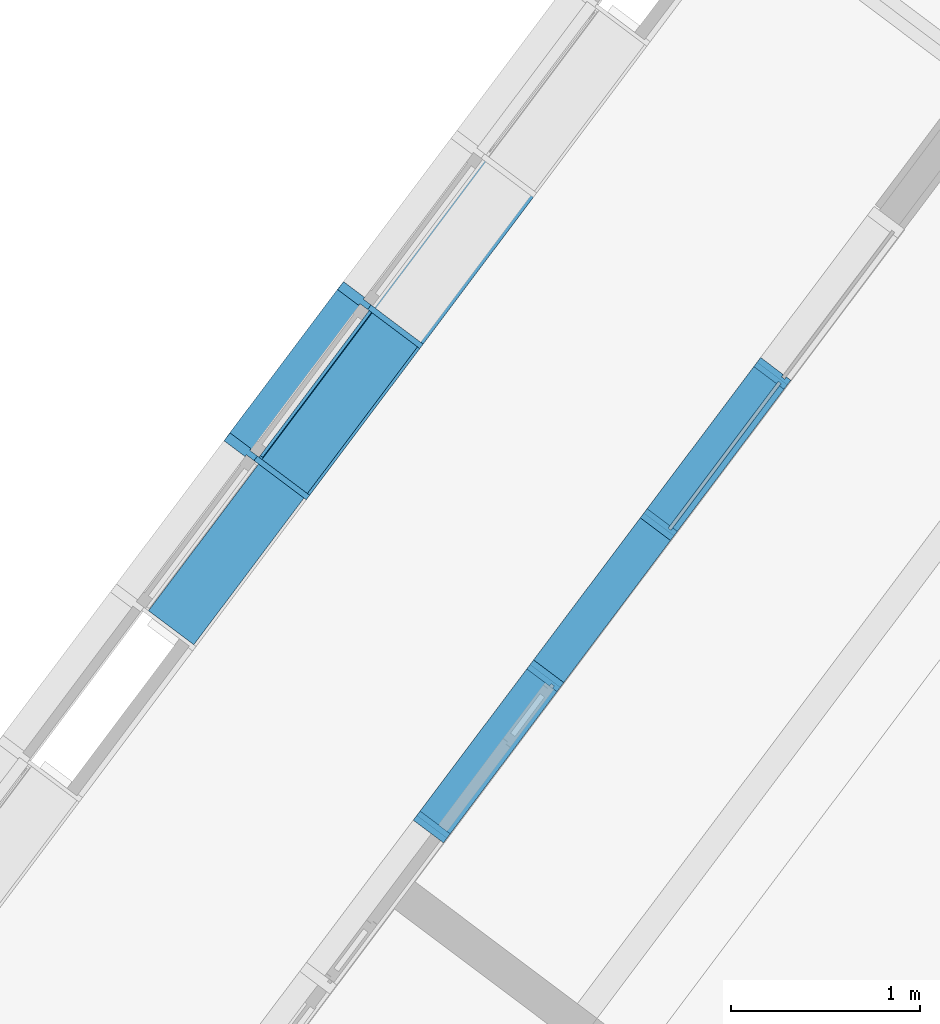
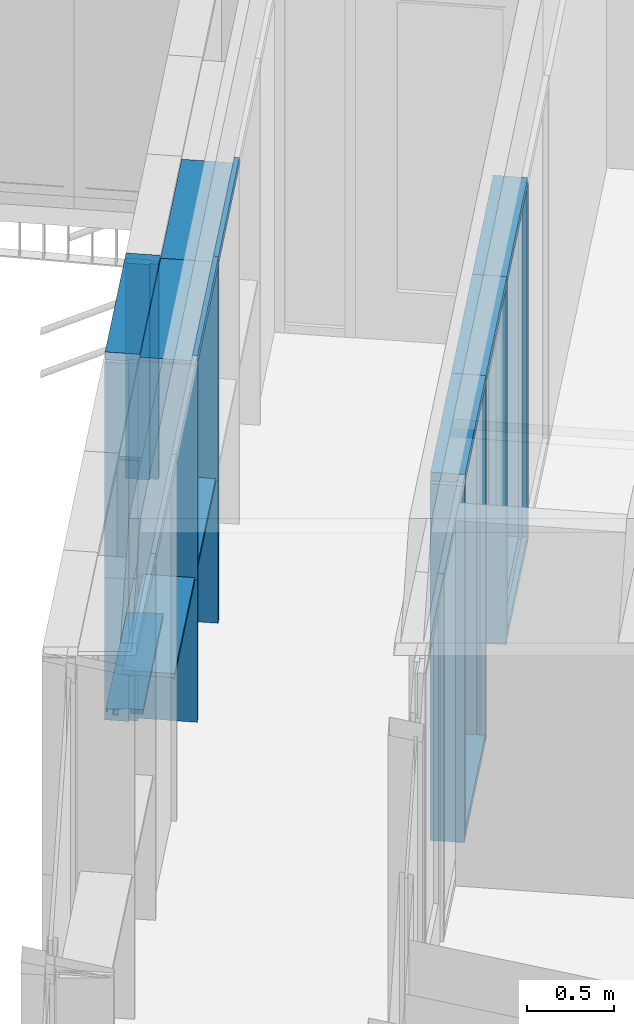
# One storey, part 24 of 243: 22 members, 3 elements without a shape of their own.
"""IFC2X3 building model written with IfcOpenShell, lengths in metres."""

from ifc_helpers import new_model, entity, si_unit, converted_unit, derived_unit, direction, frame, frame_2d, origin, place, context, subcontext, project, spatial, polyline, circle_curve, parameter, trimmed, segment, composite_curve, rectangle, outline, extrude, source, transform, mapped, material, type_object, type_shapes, element, aggregate, save


model = new_model("IFC2X3")

# Units and contexts
model_context = context("Model", 3, precision=1e-05, world=origin(), true_north=direction((6.123031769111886e-17, 1.0)))
body_context = subcontext(model_context, "Body", "Model", "MODEL_VIEW")
ifc_project = project(units=[si_unit("LENGTHUNIT", "METRE"), si_unit("AREAUNIT", "SQUARE_METRE"), si_unit("VOLUMEUNIT", "CUBIC_METRE"), converted_unit("PLANEANGLEUNIT", "DEGREE", entity("IfcRatioMeasure", 0.017453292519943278), si_unit("PLANEANGLEUNIT", "RADIAN"), dimensions=[0, 0, 0, 0, 0, 0, 0]), si_unit("MASSUNIT", "GRAM", prefix="KILO"), derived_unit("MASSDENSITYUNIT", [(si_unit("MASSUNIT", "GRAM", prefix="KILO"), 1), (si_unit("LENGTHUNIT", "METRE"), -3)]), derived_unit("IONCONCENTRATIONUNIT", [(si_unit("MASSUNIT", "GRAM", prefix="KILO"), 1), (si_unit("LENGTHUNIT", "METRE"), -3)]), derived_unit("MOMENTOFINERTIAUNIT", [(si_unit("LENGTHUNIT", "METRE"), 4)]), si_unit("TIMEUNIT", "SECOND"), si_unit("FREQUENCYUNIT", "HERTZ"), si_unit("THERMODYNAMICTEMPERATUREUNIT", "DEGREE_CELSIUS"), derived_unit("THERMALTRANSMITTANCEUNIT", [(si_unit("MASSUNIT", "GRAM", prefix="KILO"), 1), (si_unit("THERMODYNAMICTEMPERATUREUNIT", "KELVIN"), -1), (si_unit("TIMEUNIT", "SECOND"), -3)]), derived_unit("THERMALCONDUCTANCEUNIT", [(si_unit("MASSUNIT", "GRAM", prefix="KILO"), 1), (si_unit("THERMODYNAMICTEMPERATUREUNIT", "KELVIN"), -1), (si_unit("TIMEUNIT", "SECOND"), -3), (si_unit("LENGTHUNIT", "METRE"), 1)]), derived_unit("VOLUMETRICFLOWRATEUNIT", [(si_unit("LENGTHUNIT", "METRE"), 3), (si_unit("TIMEUNIT", "SECOND"), -1)]), derived_unit("MASSFLOWRATEUNIT", [(si_unit("MASSUNIT", "GRAM", prefix="KILO"), 1), (si_unit("TIMEUNIT", "SECOND"), -1)]), derived_unit("ROTATIONALFREQUENCYUNIT", [(si_unit("TIMEUNIT", "SECOND"), -1)]), si_unit("ELECTRICCURRENTUNIT", "AMPERE"), si_unit("ELECTRICVOLTAGEUNIT", "VOLT"), si_unit("POWERUNIT", "WATT"), si_unit("FORCEUNIT", "NEWTON", prefix="KILO"), si_unit("ILLUMINANCEUNIT", "LUX"), si_unit("LUMINOUSFLUXUNIT", "LUMEN"), si_unit("LUMINOUSINTENSITYUNIT", "CANDELA"), derived_unit("USERDEFINED", [(si_unit("MASSUNIT", "GRAM", prefix="KILO"), -1), (si_unit("LENGTHUNIT", "METRE"), -2), (si_unit("TIMEUNIT", "SECOND"), 3), (si_unit("LUMINOUSFLUXUNIT", "LUMEN"), 1)]), derived_unit("USERDEFINED", [(si_unit("MASSUNIT", "GRAM", prefix="KILO"), 1), (si_unit("TIMEUNIT", "SECOND"), -3), (si_unit("LENGTHUNIT", "METRE"), 3), (si_unit("ELECTRICCURRENTUNIT", "AMPERE"), -2)]), derived_unit("SOUNDPOWERUNIT", [(si_unit("MASSUNIT", "GRAM", prefix="KILO"), 1), (si_unit("TIMEUNIT", "SECOND"), -3), (si_unit("LENGTHUNIT", "METRE"), 2)]), derived_unit("SOUNDPRESSUREUNIT", [(si_unit("MASSUNIT", "GRAM", prefix="KILO"), 1), (si_unit("LENGTHUNIT", "METRE"), -1), (si_unit("TIMEUNIT", "SECOND"), -2)]), derived_unit("LINEARVELOCITYUNIT", [(si_unit("LENGTHUNIT", "METRE"), 1), (si_unit("TIMEUNIT", "SECOND"), -1)]), si_unit("PRESSUREUNIT", "PASCAL"), derived_unit("USERDEFINED", [(si_unit("MASSUNIT", "GRAM", prefix="KILO"), 1), (si_unit("LENGTHUNIT", "METRE"), -2), (si_unit("TIMEUNIT", "SECOND"), -2)]), derived_unit("LINEARFORCEUNIT", [(si_unit("MASSUNIT", "GRAM", prefix="KILO"), 1), (si_unit("TIMEUNIT", "SECOND"), -2)]), derived_unit("PLANARFORCEUNIT", [(si_unit("MASSUNIT", "GRAM", prefix="KILO"), 1), (si_unit("LENGTHUNIT", "METRE"), -1), (si_unit("TIMEUNIT", "SECOND"), -2)]), derived_unit("SPECIFICHEATCAPACITYUNIT", [(si_unit("THERMODYNAMICTEMPERATUREUNIT", "KELVIN"), -1), (si_unit("LENGTHUNIT", "METRE"), 2), (si_unit("TIMEUNIT", "SECOND"), -2)]), derived_unit("HEATINGVALUEUNIT", [(si_unit("LENGTHUNIT", "METRE"), 2), (si_unit("TIMEUNIT", "SECOND"), -2)]), derived_unit("VAPORPERMEABILITYUNIT", [(si_unit("LENGTHUNIT", "METRE"), -1), (si_unit("TIMEUNIT", "SECOND"), 1)]), derived_unit("DYNAMICVISCOSITYUNIT", [(si_unit("MASSUNIT", "GRAM", prefix="KILO"), 1), (si_unit("TIMEUNIT", "SECOND"), -1), (si_unit("LENGTHUNIT", "METRE"), -1)]), derived_unit("THERMALEXPANSIONCOEFFICIENTUNIT", [(si_unit("THERMODYNAMICTEMPERATUREUNIT", "KELVIN"), -1)]), derived_unit("MODULUSOFELASTICITYUNIT", [(si_unit("MASSUNIT", "GRAM", prefix="KILO"), 1), (si_unit("LENGTHUNIT", "METRE"), -1), (si_unit("TIMEUNIT", "SECOND"), -2)]), derived_unit("ISOTHERMALMOISTURECAPACITYUNIT", [(si_unit("LENGTHUNIT", "METRE"), 3), (si_unit("MASSUNIT", "GRAM", prefix="KILO"), -1)]), derived_unit("MOISTUREDIFFUSIVITYUNIT", [(si_unit("TIMEUNIT", "SECOND"), -1), (si_unit("LENGTHUNIT", "METRE"), 2)])], contexts=[model_context])

# Site, building, storey
site_placement = place(None, frame((0.0, 0.0, 235.0), z_axis=(0.0, 0.0, 1.0), x_axis=(-0.7996477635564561, 0.6004693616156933, 0.0)))
site = spatial("IfcSite", under=ifc_project, at=site_placement, Name="Default", CompositionType="ELEMENT")
building_placement = place(site_placement, origin())
building = spatial("IfcBuilding", under=site, at=building_placement, CompositionType="ELEMENT")
storey_placement = place(building_placement, origin())
storey = spatial("IfcBuildingStorey", under=building, at=storey_placement, Name="P0- Escola", CompositionType="ELEMENT", Elevation=0.0)

# Curtain wall, members
curtain_wall_type_1 = type_object("IfcCurtainWallType", Name="Muro cortina:MC- INT- a2", PredefinedType="NOTDEFINED")
curtain_wall_1_placement = place(storey_placement, origin())
curtain_wall_1 = element("IfcCurtainWall", 1, at=curtain_wall_1_placement, inside=storey, type_object=curtain_wall_type_1, Name="Muro cortina:MC- INT- a2", ObjectType="Muro cortina:MC- INT- a2")
ifc_material_1 = material(Name="_Fusta massisa- T1")
member_type_1 = type_object("IfcMemberType", Name="Montante rectangular:MC- Fusta- 20x6 cm- Centre", PredefinedType="MULLION", material=ifc_material_1)
shared_shape_1 = source(origin(), body_context, "Body", "SweptSolid", [
    extrude(outline(polyline([(-0.14, -0.03), (0.009999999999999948, -0.03), (0.009999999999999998, -0.014999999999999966), (0.030000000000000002, -0.015), (0.030000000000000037, -0.030000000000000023), (0.060000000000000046, -0.029999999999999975), (0.059999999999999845, 0.030000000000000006), (0.030000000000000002, 0.029999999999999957), (0.030000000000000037, 0.015), (0.010000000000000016, 0.015), (0.010000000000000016, 0.03), (-0.14, 0.03), (-0.14, -0.03)])), frame((0.0, 0.019999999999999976, -2.505000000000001), z_axis=(0.0, 0.0, 1.0), x_axis=(0.0, -1.0, 0.0)), (0.0, 0.0, 1.0), 2.5050000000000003),
])
type_shapes(member_type_1, [shared_shape_1])
member_1_placement = place(curtain_wall_1_placement, frame((34.62014768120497, -33.41519175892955, 0.0), z_axis=(0.0, 0.0, -1.0), x_axis=(0.0, 1.0, 0.0)))
member_1 = element("IfcMember", 2, at=member_1_placement, type_object=member_type_1, material=ifc_material_1, Name="Montante rectangular:MC- Fusta- 20x6 cm- Centre", ObjectType="Montante rectangular:MC- Fusta- 20x6 cm- Centre", context=body_context, shape_type="MappedRepresentation", body=[
    mapped(shared_shape_1, transform((0.0, 0.0, 0.0), scale=1.0)),
])
member_type_2 = type_object("IfcMemberType", Name="Montante rectangular:MC- Fusta- 20x6 cm- Esquerra", PredefinedType="MULLION", material=ifc_material_1)
shared_shape_2 = source(origin(), body_context, "Body", "SweptSolid", [
    extrude(outline(polyline([(-0.13, -0.018750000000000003), (0.02, -0.018750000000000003), (0.02, -0.003750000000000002), (0.04000000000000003, -0.003750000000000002), (0.04000000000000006, -0.01875000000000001), (0.07000000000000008, -0.018750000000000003), (0.06999999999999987, 0.041249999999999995), (-0.13, 0.041249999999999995), (-0.13, -0.018750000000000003)])), frame((-0.01124999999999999, 0.029999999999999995, -2.5050000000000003), z_axis=(0.0, 0.0, 1.0), x_axis=(0.0, -1.0, 0.0)), (0.0, 0.0, 1.0), 2.5050000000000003),
])
type_shapes(member_type_2, [shared_shape_2])
member_2_placement = place(curtain_wall_1_placement, frame((34.62014768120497, -32.41519175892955, 0.0), z_axis=(0.0, 0.0, -1.0), x_axis=(0.0, 1.0, 0.0)))
member_2 = element("IfcMember", 3, at=member_2_placement, type_object=member_type_2, material=ifc_material_1, Name="Montante rectangular:MC- Fusta- 20x6 cm- Esquerra", ObjectType="Montante rectangular:MC- Fusta- 20x6 cm- Esquerra", context=body_context, shape_type="MappedRepresentation", body=[
    mapped(shared_shape_2, transform((0.0, 0.0, 0.0), scale=1.0)),
])
member_type_3 = type_object("IfcMemberType", Name="Montante rectangular:MC- Fusta- 20x6 cm- Esquerra", PredefinedType="MULLION", material=ifc_material_1)
shared_shape_3 = source(origin(), body_context, "Body", "SweptSolid", [
    extrude(outline(polyline([(-0.13000000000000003, -0.018750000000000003), (0.020000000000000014, -0.018750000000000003), (0.020000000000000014, -0.003750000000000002), (0.040000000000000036, -0.003750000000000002), (0.04000000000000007, -0.01875000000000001), (0.07000000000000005, -0.018750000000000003), (0.06999999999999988, 0.041249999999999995), (-0.13000000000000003, 0.041249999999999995), (-0.13000000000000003, -0.018750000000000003)])), frame((-0.041249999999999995, 0.030000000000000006, -1.0), z_axis=(0.0, 0.0, 1.0), x_axis=(0.0, -1.0, 0.0)), (0.0, 0.0, 1.0), 0.9999999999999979),
])
type_shapes(member_type_3, [shared_shape_3])
member_3_placement = place(curtain_wall_1_placement, frame((34.62014768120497, -32.41519175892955, 2.565), z_axis=(0.0, 1.0, 0.0), x_axis=(0.0, 0.0, 1.0)))
member_3 = element("IfcMember", 4, at=member_3_placement, type_object=member_type_3, material=ifc_material_1, Name="Montante rectangular:MC- Fusta- 20x6 cm- Esquerra", ObjectType="Montante rectangular:MC- Fusta- 20x6 cm- Esquerra", context=body_context, shape_type="MappedRepresentation", body=[
    mapped(shared_shape_3, transform((0.0, 0.0, 0.0), scale=1.0)),
])
member_type_4 = type_object("IfcMemberType", Name="Montante rectangular:MC- Fusta- 20x6 cm- Neutre", PredefinedType="MULLION", material=ifc_material_1)
shared_shape_4 = source(origin(), body_context, "Body", "SweptSolid", [
    extrude(rectangle(XDim=0.2, YDim=0.06, at=frame_2d((-5.551115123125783e-17, 0.0), x_axis=(1.0, 0.0))), frame((0.0, 0.060000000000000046, -2.5050000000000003), z_axis=(0.0, 0.0, 1.0), x_axis=(0.0, -1.0, 0.0)), (0.0, 0.0, 1.0), 2.5050000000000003),
])
type_shapes(member_type_4, [shared_shape_4])
member_4_placement = place(curtain_wall_1_placement, frame((34.620147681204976, -30.41519175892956, 0.0), z_axis=(0.0, 0.0, -1.0), x_axis=(0.0, 1.0, 0.0)))
member_4 = element("IfcMember", 5, at=member_4_placement, type_object=member_type_4, material=ifc_material_1, Name="Montante rectangular:MC- Fusta- 20x6 cm- Neutre", ObjectType="Montante rectangular:MC- Fusta- 20x6 cm- Neutre", context=body_context, shape_type="MappedRepresentation", body=[
    mapped(shared_shape_4, transform((0.0, 0.0, 0.0), scale=1.0)),
])
member_type_5 = type_object("IfcMemberType", Name="Montante rectangular:MC- Fusta- 20x6 cm- Esquerra", PredefinedType="MULLION", material=ifc_material_1)
shared_shape_5 = source(origin(), body_context, "Body", "SweptSolid", [
    extrude(outline(polyline([(-0.13, -0.018750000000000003), (0.02, -0.018750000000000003), (0.02, -0.003750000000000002), (0.04000000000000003, -0.003750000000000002), (0.04000000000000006, -0.01875000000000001), (0.07000000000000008, -0.018750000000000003), (0.06999999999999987, 0.041249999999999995), (-0.13, 0.041249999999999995), (-0.13, -0.018750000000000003)])), frame((-0.041249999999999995, 0.029999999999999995, -1.0), z_axis=(0.0, 0.0, 1.0), x_axis=(0.0, -1.0, 0.0)), (0.0, 0.0, 1.0), 0.9999999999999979),
])
type_shapes(member_type_5, [shared_shape_5])
member_5_placement = place(curtain_wall_1_placement, frame((34.620147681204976, -30.41519175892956, 2.565), z_axis=(0.0, 1.0, 0.0), x_axis=(0.0, 0.0, 1.0)))
member_5 = element("IfcMember", 6, at=member_5_placement, type_object=member_type_5, material=ifc_material_1, Name="Montante rectangular:MC- Fusta- 20x6 cm- Esquerra", ObjectType="Montante rectangular:MC- Fusta- 20x6 cm- Esquerra", context=body_context, shape_type="MappedRepresentation", body=[
    mapped(shared_shape_5, transform((0.0, 0.0, 0.0), scale=1.0)),
])
member_type_6 = type_object("IfcMemberType", Name="Montante rectangular:MC- Fusta- 20x6 cm- Neutre", PredefinedType="MULLION", material=ifc_material_1)
shared_shape_6 = source(origin(), body_context, "Body", "SweptSolid", [
    extrude(rectangle(XDim=0.20000000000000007, YDim=0.06, at=frame_2d((-5.551115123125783e-17, 0.0), x_axis=(1.0, 0.0))), frame((-0.03, 0.06000000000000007, -1.0), z_axis=(0.0, 0.0, 1.0), x_axis=(0.0, -1.0, 0.0)), (0.0, 0.0, 1.0), 0.9999999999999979),
])
type_shapes(member_type_6, [shared_shape_6])
member_6_placement = place(curtain_wall_1_placement, frame((34.620147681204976, -31.415191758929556, 2.565), z_axis=(0.0, 1.0, 0.0), x_axis=(0.0, 0.0, 1.0)))
member_6 = element("IfcMember", 7, at=member_6_placement, type_object=member_type_6, material=ifc_material_1, Name="Montante rectangular:MC- Fusta- 20x6 cm- Neutre", ObjectType="Montante rectangular:MC- Fusta- 20x6 cm- Neutre", context=body_context, shape_type="MappedRepresentation", body=[
    mapped(shared_shape_6, transform((0.0, 0.0, 0.0), scale=1.0)),
])
member_type_7 = type_object("IfcMemberType", Name="Montante rectangular:MC- Fusta- 20x6 cm- Dreta", PredefinedType="MULLION", material=ifc_material_1)
shared_shape_7 = source(origin(), body_context, "Body", "SweptSolid", [
    extrude(outline(polyline([(-0.13000000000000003, -0.041249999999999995), (0.07000000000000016, -0.041249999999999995), (0.06999999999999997, 0.01875), (0.039999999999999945, 0.01875), (0.03999999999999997, 0.00375), (0.019999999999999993, 0.00375), (0.019999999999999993, 0.01875), (-0.13000000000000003, 0.01875), (-0.13000000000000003, -0.041249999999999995)])), frame((0.011250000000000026, 0.029999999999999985, -2.5050000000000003), z_axis=(0.0, 0.0, 1.0), x_axis=(0.0, -1.0, 0.0)), (0.0, 0.0, 1.0), 2.5050000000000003),
])
type_shapes(member_type_7, [shared_shape_7])
member_7_placement = place(curtain_wall_1_placement, frame((34.620147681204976, -31.415191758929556, 0.0), z_axis=(0.0, 0.0, -1.0), x_axis=(0.0, 1.0, 0.0)))
member_7 = element("IfcMember", 8, at=member_7_placement, type_object=member_type_7, material=ifc_material_1, Name="Montante rectangular:MC- Fusta- 20x6 cm- Dreta", ObjectType="Montante rectangular:MC- Fusta- 20x6 cm- Dreta", context=body_context, shape_type="MappedRepresentation", body=[
    mapped(shared_shape_7, transform((0.0, 0.0, 0.0), scale=1.0)),
])
member_type_8 = type_object("IfcMemberType", Name="Montante rectangular:MC- Fusta- 20x6 cm- Inferior", PredefinedType="MULLION", material=ifc_material_1)
shared_shape_8 = source(origin(), body_context, "Body", "SweptSolid", [
    extrude(outline(polyline([(-0.12999999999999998, -0.018750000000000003), (0.01999999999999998, -0.018750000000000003), (0.01999999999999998, -0.0037500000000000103), (0.04, -0.0037500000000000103), (0.039999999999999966, -0.018750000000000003), (0.06999999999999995, -0.018750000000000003), (0.07000000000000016, 0.041249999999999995), (-0.12999999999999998, 0.041249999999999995), (-0.12999999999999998, -0.018750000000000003)])), frame((-0.041249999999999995, 0.029999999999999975, -0.9399999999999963), z_axis=(0.0, 0.0, 1.0), x_axis=(0.0, -1.0, 0.0)), (0.0, 0.0, 1.0), 0.9399999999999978),
])
type_shapes(member_type_8, [shared_shape_8])
member_8_placement = place(curtain_wall_1_placement, frame((34.62014768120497, -33.38519175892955, 0.0), z_axis=(0.0, -1.0, 0.0), x_axis=(0.0, 0.0, -1.0)))
member_8 = element("IfcMember", 9, at=member_8_placement, type_object=member_type_8, material=ifc_material_1, Name="Montante rectangular:MC- Fusta- 20x6 cm- Inferior", ObjectType="Montante rectangular:MC- Fusta- 20x6 cm- Inferior", context=body_context, shape_type="MappedRepresentation", body=[
    mapped(shared_shape_8, transform((0.0, 0.0, 0.0), scale=1.0)),
])
member_type_9 = type_object("IfcMemberType", Name="Montante rectangular:MC- Fusta- 20x6 cm- Neutre", PredefinedType="MULLION", material=ifc_material_1)
shared_shape_9 = source(origin(), body_context, "Body", "SweptSolid", [
    extrude(rectangle(XDim=0.19999999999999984, YDim=0.06, at=frame_2d((4.85722573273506e-17, 0.0), x_axis=(1.0, 0.0))), frame((-0.03, 0.06000000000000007, -0.9399999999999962), z_axis=(0.0, 0.0, 1.0), x_axis=(0.0, -1.0, 0.0)), (0.0, 0.0, 1.0), 0.9399999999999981),
])
type_shapes(member_type_9, [shared_shape_9])
member_9_placement = place(curtain_wall_1_placement, frame((34.620147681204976, -31.385191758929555, 0.0), z_axis=(0.0, -1.0, 0.0), x_axis=(0.0, 0.0, -1.0)))
member_9 = element("IfcMember", 10, at=member_9_placement, type_object=member_type_9, material=ifc_material_1, Name="Montante rectangular:MC- Fusta- 20x6 cm- Neutre", ObjectType="Montante rectangular:MC- Fusta- 20x6 cm- Neutre", context=body_context, shape_type="MappedRepresentation", body=[
    mapped(shared_shape_9, transform((0.0, 0.0, 0.0), scale=1.0)),
])
aggregate(curtain_wall_1, [member_1, member_3, member_2, member_6, member_7, member_5, member_4, member_8, member_9])

curtain_wall_type_2 = type_object("IfcCurtainWallType", Name="Muro cortina:MC- INT- k2", PredefinedType="NOTDEFINED")
curtain_wall_2_placement = place(storey_placement, origin())
curtain_wall_2 = element("IfcCurtainWall", 11, at=curtain_wall_2_placement, inside=storey, type_object=curtain_wall_type_2, Name="Muro cortina:MC- INT- k2", ObjectType="Muro cortina:MC- INT- k2")
member_type_10 = type_object("IfcMemberType", Name="Montante rectangular:MC- Fusta- 35x3 cm- Centre", PredefinedType="MULLION", material=ifc_material_1)
shared_shape_10 = source(origin(), body_context, "Body", "SweptSolid", [
    extrude(rectangle(XDim=0.3450000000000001, YDim=0.030000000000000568, at=frame_2d((0.0, -1.3964523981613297e-16), x_axis=(1.0, 0.0))), frame((0.0, -0.07750000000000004, -1.0), z_axis=(0.0, 0.0, 1.0), x_axis=(0.0, -1.0, 0.0)), (0.0, 0.0, 1.0), 1.0),
])
type_shapes(member_type_10, [shared_shape_10])
member_10_placement = place(curtain_wall_2_placement, frame((36.345147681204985, -31.415191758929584, 0.0), z_axis=(0.0, 0.0, -1.0), x_axis=(0.0, -1.0, 0.0)))
member_10 = element("IfcMember", 12, at=member_10_placement, type_object=member_type_10, material=ifc_material_1, Name="Montante rectangular:MC- Fusta- 35x3 cm- Centre", ObjectType="Montante rectangular:MC- Fusta- 35x3 cm- Centre", context=body_context, shape_type="MappedRepresentation", body=[
    mapped(shared_shape_10, transform((0.0, 0.0, 0.0), scale=1.0)),
])
member_11_placement = place(curtain_wall_2_placement, frame((36.345147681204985, -32.41519175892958, 0.0), z_axis=(0.0, 0.0, -1.0), x_axis=(0.0, -1.0, 0.0)))
member_11 = element("IfcMember", 13, at=member_11_placement, type_object=member_type_10, material=ifc_material_1, Name="Montante rectangular:MC- Fusta- 35x3 cm- Centre", ObjectType="Montante rectangular:MC- Fusta- 35x3 cm- Centre", context=body_context, shape_type="MappedRepresentation", body=[
    mapped(shared_shape_10, transform((0.0, 0.0, 0.0), scale=1.0)),
])
member_type_11 = type_object("IfcMemberType", Name="Montante rectangular:MC- Fusta- 35x3 cm- Pati aules- Remat superior", PredefinedType="MULLION", material=ifc_material_1)
shared_shape_11 = source(origin(), body_context, "Body", "SweptSolid", [
    extrude(outline(polyline([(-0.12166666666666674, -0.02666666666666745), (0.21333333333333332, -0.02666666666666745), (0.2133333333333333, -0.006666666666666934), (-0.09166666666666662, -0.006666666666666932), (-0.09166666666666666, 0.03333333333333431), (-0.12166666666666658, 0.03333333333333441), (-0.12166666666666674, -0.02666666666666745)])), frame((-0.033333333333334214, -0.026666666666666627, -1.0), z_axis=(0.0, 0.0, 1.0), x_axis=(0.0, -1.0, 0.0)), (0.0, 0.0, 1.0), 0.9999999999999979),
])
type_shapes(member_type_11, [shared_shape_11])
member_12_placement = place(curtain_wall_2_placement, frame((36.345147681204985, -32.41519175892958, 2.565), z_axis=(0.0, -1.0, 0.0), x_axis=(0.0, 0.0, 1.0)))
member_12 = element("IfcMember", 14, at=member_12_placement, type_object=member_type_11, material=ifc_material_1, Name="Montante rectangular:MC- Fusta- 35x3 cm- Pati aules- Remat superior", ObjectType="Montante rectangular:MC- Fusta- 35x3 cm- Pati aules- Remat superior", context=body_context, shape_type="MappedRepresentation", body=[
    mapped(shared_shape_11, transform((0.0, 0.0, 0.0), scale=1.0)),
])
member_13_placement = place(curtain_wall_2_placement, frame((36.345147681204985, -33.41519175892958, 2.565), z_axis=(0.0, -1.0, 0.0), x_axis=(0.0, 0.0, 1.0)))
member_13 = element("IfcMember", 15, at=member_13_placement, type_object=member_type_11, material=ifc_material_1, Name="Montante rectangular:MC- Fusta- 35x3 cm- Pati aules- Remat superior", ObjectType="Montante rectangular:MC- Fusta- 35x3 cm- Pati aules- Remat superior", context=body_context, shape_type="MappedRepresentation", body=[
    mapped(shared_shape_11, transform((0.0, 0.0, 0.0), scale=1.0)),
])
member_type_12 = type_object("IfcMemberType", Name="Montante rectangular:MC- Fusta- 35x3 cm- Pati aules- Prestatge", PredefinedType="MULLION", material=ifc_material_1)
shared_shape_12 = source(origin(), body_context, "Body", "SweptSolid", [
    extrude(rectangle(XDim=0.30000000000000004, YDim=0.03000000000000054, at=frame_2d((0.0, -1.231653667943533e-16), x_axis=(1.0, 0.0))), frame((0.0, -0.07000000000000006, -0.9699999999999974), z_axis=(0.0, 0.0, 1.0), x_axis=(0.0, -1.0, 0.0)), (0.0, 0.0, 1.0), 0.969999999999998),
])
type_shapes(member_type_12, [shared_shape_12])
member_14_placement = place(curtain_wall_2_placement, frame((36.345147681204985, -31.400191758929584, 1.0), z_axis=(0.0, -1.0, 0.0), x_axis=(0.0, 0.0, 1.0)))
member_14 = element("IfcMember", 16, at=member_14_placement, type_object=member_type_12, material=ifc_material_1, Name="Montante rectangular:MC- Fusta- 35x3 cm- Pati aules- Prestatge", ObjectType="Montante rectangular:MC- Fusta- 35x3 cm- Pati aules- Prestatge", context=body_context, shape_type="MappedRepresentation", body=[
    mapped(shared_shape_12, transform((0.0, 0.0, 0.0), scale=1.0)),
])
member_15_placement = place(curtain_wall_2_placement, frame((36.345147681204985, -32.40019175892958, 1.0), z_axis=(0.0, -1.0, 0.0), x_axis=(0.0, 0.0, 1.0)))
member_15 = element("IfcMember", 17, at=member_15_placement, type_object=member_type_12, material=ifc_material_1, Name="Montante rectangular:MC- Fusta- 35x3 cm- Pati aules- Prestatge", ObjectType="Montante rectangular:MC- Fusta- 35x3 cm- Pati aules- Prestatge", context=body_context, shape_type="MappedRepresentation", body=[
    mapped(shared_shape_12, transform((0.0, 0.0, 0.0), scale=1.0)),
])
member_type_13 = type_object("IfcMemberType", Name="Montante rectangular:MC- Fusta- 35x3 cm- Centre", PredefinedType="MULLION", material=ifc_material_1)
shared_shape_13 = source(origin(), body_context, "Body", "SweptSolid", [
    extrude(rectangle(XDim=0.3450000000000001, YDim=0.030000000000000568, at=frame_2d((0.0, -1.3964523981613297e-16), x_axis=(1.0, 0.0))), frame((0.0, -0.07750000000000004, -1.504999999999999), z_axis=(0.0, 0.0, 1.0), x_axis=(0.0, -1.0, 0.0)), (0.0, 0.0, 1.0), 1.504999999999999),
])
type_shapes(member_type_13, [shared_shape_13])
member_16_placement = place(curtain_wall_2_placement, frame((36.345147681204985, -31.415191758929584, 1.0), z_axis=(0.0, 0.0, -1.0), x_axis=(0.0, -1.0, 0.0)))
member_16 = element("IfcMember", 18, at=member_16_placement, type_object=member_type_13, material=ifc_material_1, Name="Montante rectangular:MC- Fusta- 35x3 cm- Centre", ObjectType="Montante rectangular:MC- Fusta- 35x3 cm- Centre", context=body_context, shape_type="MappedRepresentation", body=[
    mapped(shared_shape_13, transform((0.0, 0.0, 0.0), scale=1.0)),
])
member_17_placement = place(curtain_wall_2_placement, frame((36.345147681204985, -32.41519175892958, 1.0), z_axis=(0.0, 0.0, -1.0), x_axis=(0.0, -1.0, 0.0)))
member_17 = element("IfcMember", 19, at=member_17_placement, type_object=member_type_13, material=ifc_material_1, Name="Montante rectangular:MC- Fusta- 35x3 cm- Centre", ObjectType="Montante rectangular:MC- Fusta- 35x3 cm- Centre", context=body_context, shape_type="MappedRepresentation", body=[
    mapped(shared_shape_13, transform((0.0, 0.0, 0.0), scale=1.0)),
])
aggregate(curtain_wall_2, [member_10, member_12, member_11, member_13, member_14, member_15, member_16, member_17])

curtain_wall_type_3 = type_object("IfcCurtainWallType", Name="Muro cortina:MC- EXT- MC5", PredefinedType="NOTDEFINED")
curtain_wall_3_placement = place(storey_placement, origin())
curtain_wall_3 = element("IfcCurtainWall", 20, at=curtain_wall_3_placement, inside=storey, type_object=curtain_wall_type_3, Name="Muro cortina:MC- EXT- MC5", ObjectType="Muro cortina:MC- EXT- MC5")
ifc_material_2 = material(Name="_Alumini- T1- Perfil")
member_type_14 = type_object("IfcMemberType", Name="Montante rectangular:MC- Alu- 140x52,5 cm- Fa patis- inferior", PredefinedType="MULLION", material=ifc_material_2)
shared_shape_14 = source(origin(), body_context, "Body", "SweptSolid", [
    extrude(outline(composite_curve([segment(polyline([(-0.144167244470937, -0.025867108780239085), (-0.12786724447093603, -0.02586710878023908)]), True, "CONTINUOUS"), segment(polyline([(-0.12786724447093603, -0.02586710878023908), (-0.12786724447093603, -0.023167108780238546)]), True, "CONTINUOUS"), segment(polyline([(-0.12786724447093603, -0.023167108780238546), (-0.0678672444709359, -0.023167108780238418)]), True, "CONTINUOUS"), segment(polyline([(-0.0678672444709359, -0.023167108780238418), (0.07031215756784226, -0.010722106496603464)]), True, "CONTINUOUS"), segment(trimmed(circle_curve(frame_2d((0.07013275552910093, -0.008730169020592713), x_axis=(0.0897010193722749, -0.9959687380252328)), 0.0019999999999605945), [parameter(0.0)], [parameter(84.8535928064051)], True, "PARAMETER"), True, "CONTINUOUS"), segment(polyline([(0.07213275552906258, -0.008730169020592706), (0.07213275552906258, 0.006266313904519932)]), True, "CONTINUOUS"), segment(trimmed(circle_curve(frame_2d((0.07013275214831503, 0.006266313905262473), x_axis=(1.0, 0.0)), 0.0020000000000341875), [parameter(0.0)], [parameter(90.00000002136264)], True, "PARAMETER"), True, "CONTINUOUS"), segment(polyline([(0.070132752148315, 0.008266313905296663), (0.06213275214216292, 0.008266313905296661)]), True, "CONTINUOUS"), segment(polyline([(0.06213275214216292, 0.008266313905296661), (0.06213275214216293, 0.006266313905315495)]), True, "CONTINUOUS"), segment(polyline([(0.06213275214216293, 0.006266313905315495), (0.06963275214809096, 0.006266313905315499)]), True, "CONTINUOUS"), segment(trimmed(circle_curve(frame_2d((0.06963275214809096, 0.005766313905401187), x_axis=(0.0, 1.0)), 0.0004999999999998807), [parameter(269.9999999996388)], [parameter(0.0)], True, "PARAMETER"), False, "CONTINUOUS"), segment(polyline([(0.07013275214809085, 0.005766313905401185), (0.07013275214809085, -0.008730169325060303)]), True, "CONTINUOUS"), segment(polyline([(0.07013275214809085, -0.008730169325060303), (0.03213275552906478, -0.012152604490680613)]), True, "CONTINUOUS"), segment(polyline([(0.03213275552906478, -0.0121526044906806), (0.03213275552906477, 0.029132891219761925)]), True, "CONTINUOUS"), segment(polyline([(0.03213275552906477, 0.029132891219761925), (0.0021327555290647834, 0.029132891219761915)]), True, "CONTINUOUS"), segment(polyline([(0.0021327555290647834, 0.029132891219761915), (0.0021327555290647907, 0.02713289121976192)]), True, "CONTINUOUS"), segment(polyline([(0.0021327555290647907, 0.02713289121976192), (0.03013275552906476, 0.02713289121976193)]), True, "CONTINUOUS"), segment(polyline([(0.03013275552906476, 0.027132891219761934), (0.03013275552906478, -0.012332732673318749)]), True, "CONTINUOUS"), segment(polyline([(0.03013275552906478, -0.012332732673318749), (-0.06786724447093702, -0.021159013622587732)]), True, "CONTINUOUS"), segment(polyline([(-0.06786724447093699, -0.02115901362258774), (-0.067867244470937, 0.009132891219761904)]), True, "CONTINUOUS"), segment(polyline([(-0.06786724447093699, 0.009132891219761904), (-0.14416724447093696, 0.009132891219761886)]), True, "CONTINUOUS"), segment(polyline([(-0.14416724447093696, 0.009132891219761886), (-0.144167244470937, -0.025867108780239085)]), True, "CONTINUOUS")], self_intersect=False)), frame((-0.029132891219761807, -0.06786724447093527, -0.9737499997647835), z_axis=(0.0, 0.0, 1.0), x_axis=(0.0, -1.0, 0.0)), (0.0, 0.0, 1.0), 0.9737499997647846),
])
type_shapes(member_type_14, [shared_shape_14])
member_18_placement = place(curtain_wall_3_placement, frame((36.645147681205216, -31.441441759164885, -0.02), z_axis=(0.0, 1.0, 0.0), x_axis=(0.0, 0.0, -1.0)))
member_18 = element("IfcMember", 21, at=member_18_placement, type_object=member_type_14, material=ifc_material_2, Name="Montante rectangular:MC- Alu- 140x52,5 cm- Fa patis- inferior", ObjectType="Montante rectangular:MC- Alu- 140x52,5 cm- Fa patis- inferior", context=body_context, shape_type="MappedRepresentation", body=[
    mapped(shared_shape_14, transform((0.0, 0.0, 0.0), scale=1.0)),
])
member_type_15 = type_object("IfcMemberType", Name="Montante rectangular:MC- Alu- 140x52,5 cm- Fa patis- Superior", PredefinedType="MULLION", material=ifc_material_2)
shared_shape_15 = source(origin(), body_context, "Body", "SweptSolid", [
    extrude(outline(polyline([(-0.026333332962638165, -0.021249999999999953), (0.11366666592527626, -0.021249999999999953), (0.11366666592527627, 0.031250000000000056), (-0.08733333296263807, 0.03125000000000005), (-0.0873333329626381, -0.010000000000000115), (-0.026333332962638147, -0.010000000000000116), (-0.026333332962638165, -0.021249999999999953)])), frame((-0.031250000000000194, -0.02733333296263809, -1.0), z_axis=(0.0, 0.0, 1.0), x_axis=(0.0, -1.0, 0.0)), (0.0, 0.0, 1.0), 1.0000000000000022),
])
type_shapes(member_type_15, [shared_shape_15])
member_19_placement = place(curtain_wall_3_placement, frame((36.64514768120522, -32.415191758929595, 2.545), z_axis=(0.0, -1.0, 0.0), x_axis=(0.0, 0.0, 1.0)))
member_19 = element("IfcMember", 22, at=member_19_placement, type_object=member_type_15, material=ifc_material_2, Name="Montante rectangular:MC- Alu- 140x52,5 cm- Fa patis- Superior", ObjectType="Montante rectangular:MC- Alu- 140x52,5 cm- Fa patis- Superior", context=body_context, shape_type="MappedRepresentation", body=[
    mapped(shared_shape_15, transform((0.0, 0.0, 0.0), scale=1.0)),
])
member_type_16 = type_object("IfcMemberType", Name="Montante rectangular:MC- Alu- 140x52,5 cm- Fa patis- Centre", PredefinedType="MULLION", material=ifc_material_2)
shared_shape_16 = source(origin(), body_context, "Body", "SweptSolid", [
    extrude(outline(polyline([(-0.021999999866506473, -0.026250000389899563), (0.11699999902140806, -0.026250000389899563), (0.11699999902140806, 0.026250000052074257), (-0.022000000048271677, 0.026250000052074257), (-0.022000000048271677, 0.015000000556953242), (-0.07299999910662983, 0.015000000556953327), (-0.07299999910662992, -0.01500000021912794), (-0.021999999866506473, -0.01500000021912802), (-0.021999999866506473, -0.026250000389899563)])), frame((0.0, -0.022999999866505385, -1.0), z_axis=(0.0, 0.0, 1.0), x_axis=(0.0, -1.0, 0.0)), (0.0, 0.0, 1.0), 1.0),
])
type_shapes(member_type_16, [shared_shape_16])
member_20_placement = place(curtain_wall_3_placement, frame((36.645147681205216, -31.41519175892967, -0.02), z_axis=(0.0, 0.0, -1.0), x_axis=(0.0, -1.0, 0.0)))
member_20 = element("IfcMember", 23, at=member_20_placement, type_object=member_type_16, material=ifc_material_2, Name="Montante rectangular:MC- Alu- 140x52,5 cm- Fa patis- Centre", ObjectType="Montante rectangular:MC- Alu- 140x52,5 cm- Fa patis- Centre", context=body_context, shape_type="MappedRepresentation", body=[
    mapped(shared_shape_16, transform((0.0, 0.0, 0.0), scale=1.0)),
])
member_type_17 = type_object("IfcMemberType", Name="Montante rectangular:MC- Alu- 140x52,5 cm- Fa patis- Centre", PredefinedType="MULLION", material=ifc_material_2)
shared_shape_17 = source(origin(), body_context, "Body", "SweptSolid", [
    extrude(outline(polyline([(-0.021999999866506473, -0.026250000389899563), (0.11699999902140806, -0.026250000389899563), (0.11699999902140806, 0.026250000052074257), (-0.022000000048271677, 0.026250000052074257), (-0.022000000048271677, 0.015000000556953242), (-0.07299999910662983, 0.015000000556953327), (-0.07299999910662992, -0.01500000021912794), (-0.021999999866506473, -0.01500000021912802), (-0.021999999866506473, -0.026250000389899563)])), frame((0.0, -0.022999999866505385, -1.5124999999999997), z_axis=(0.0, 0.0, 1.0), x_axis=(0.0, -1.0, 0.0)), (0.0, 0.0, 1.0), 1.5124999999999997),
])
type_shapes(member_type_17, [shared_shape_17])
member_21_placement = place(curtain_wall_3_placement, frame((36.645147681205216, -31.41519175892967, 0.98), z_axis=(0.0, 0.0, -1.0), x_axis=(0.0, -1.0, 0.0)))
member_21 = element("IfcMember", 24, at=member_21_placement, type_object=member_type_17, material=ifc_material_2, Name="Montante rectangular:MC- Alu- 140x52,5 cm- Fa patis- Centre", ObjectType="Montante rectangular:MC- Alu- 140x52,5 cm- Fa patis- Centre", context=body_context, shape_type="MappedRepresentation", body=[
    mapped(shared_shape_17, transform((0.0, 0.0, 0.0), scale=1.0)),
])
member_22_placement = place(curtain_wall_3_placement, frame((36.64514768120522, -32.415191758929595, 0.98), z_axis=(0.0, 0.0, -1.0), x_axis=(0.0, -1.0, 0.0)))
member_22 = element("IfcMember", 25, at=member_22_placement, type_object=member_type_17, material=ifc_material_2, Name="Montante rectangular:MC- Alu- 140x52,5 cm- Fa patis- Centre", ObjectType="Montante rectangular:MC- Alu- 140x52,5 cm- Fa patis- Centre", context=body_context, shape_type="MappedRepresentation", body=[
    mapped(shared_shape_17, transform((0.0, 0.0, 0.0), scale=1.0)),
])
aggregate(curtain_wall_3, [member_18, member_20, member_19, member_21, member_22])

save(model, "model.ifc")
